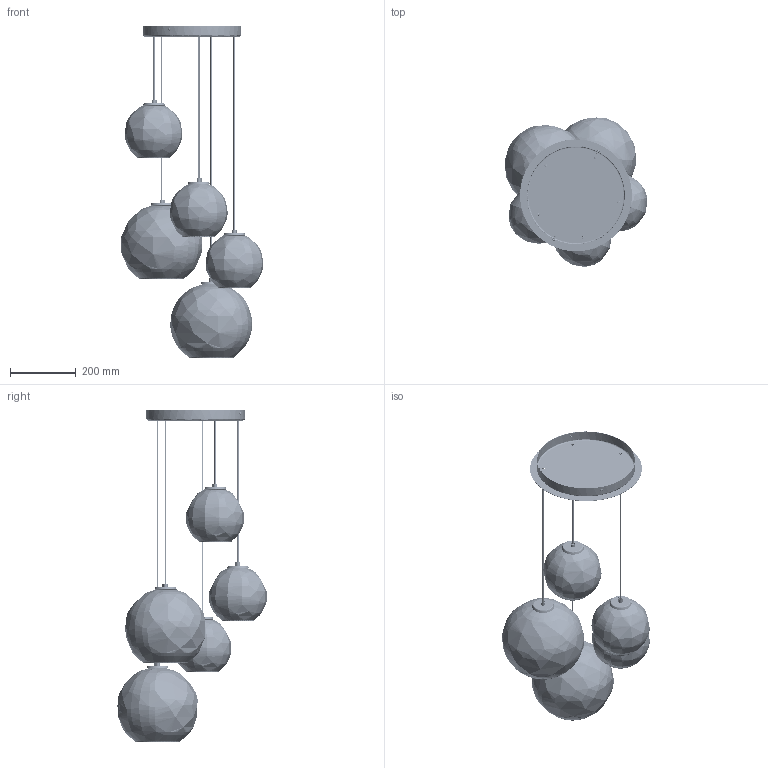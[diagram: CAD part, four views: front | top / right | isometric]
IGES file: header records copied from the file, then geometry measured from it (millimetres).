
Start section: SolidWorks IGES file using NURBS representation for surfaces
Global section: file name: Z:\Modele 3D_WWW\_KOLEKCJE_WWW\VETRO\VETRO-V-7642\VETRO-V-7642.IGS; native system: SolidWorks 2021; preprocessor: SolidWorks 2021; author: gabriela.tworek; date: 211015.124817; units: millimetre
Bounding box: 434.42 x 454.41 x 1009.9 mm (x, y, z)
Surface area: 2102722.2 mm2 (no closed solid volume)
Topology: 0 solids, 0 shells, 2853 faces, 33684 edges, 33635 vertices
Faces by surface type: bspline 2853
